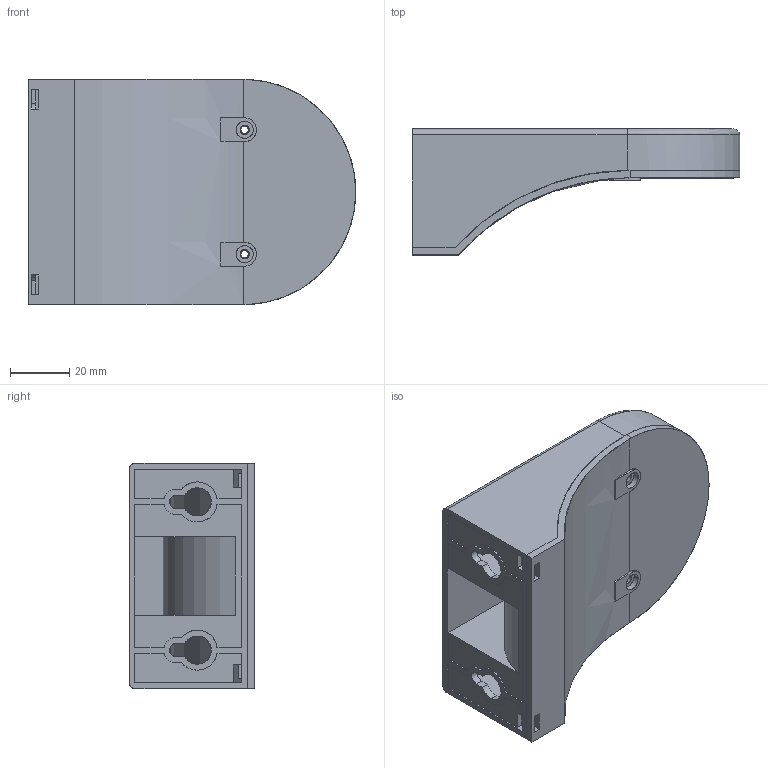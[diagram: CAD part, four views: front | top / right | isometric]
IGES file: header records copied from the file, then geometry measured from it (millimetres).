
Start section: SolidWorks IGES file using analytic representation for surfaces
Global section: file name: C:\PDMWTemp\28250200000 - BR50-W.IGS; native system: SolidWorks 2010; preprocessor: SolidWorks 2010; author: MMark; date: 100712.113648; units: millimetre
Bounding box: 110.5 x 42.5 x 76 mm (x, y, z)
Surface area: 47442.9 mm2 (no closed solid volume)
Topology: 0 solids, 0 shells, 135 faces, 1843 edges, 1843 vertices
Faces by surface type: bspline 75, revolution 60
